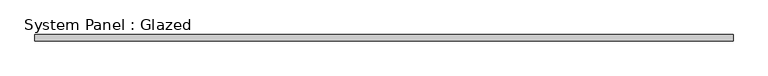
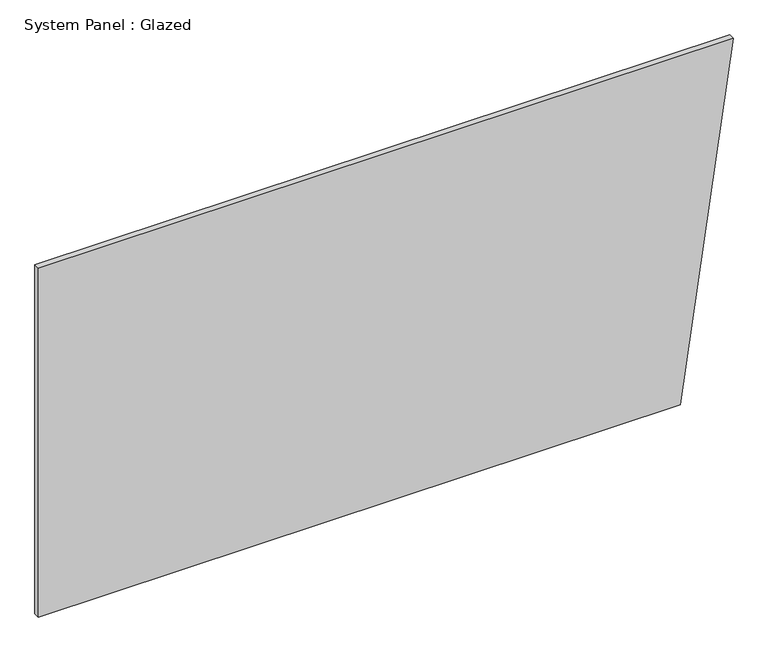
"""IFC4 building model written with IfcOpenShell, lengths in millimetres: plate geometry, System Panel : Glazed."""

from ifc_helpers import new_model, si_unit, frame, origin, place, context, project, spatial, polyline, outline, extrude, source, transform, mapped, element, save


def system_panel_glazed_e8fac23b(model_context):
    return source(origin(), model_context, "Body", "SweptSolid", [
        extrude(outline(polyline([(0.0, -1436.2877696), (0.0, 1217.0071941), (1524.0, 1436.2877696), (1524.0, -1436.2877696), (0.0, -1436.2877696)])), frame((0.0, 19.05, 0.0), z_axis=(0.0, 1.0, 0.0), x_axis=(0.0, 0.0, 1.0)), (0.0, 0.0, 1.0), 25.4),
    ])


if __name__ == "__main__":
    model = new_model("IFC4")
    model_context = context("Model", 3, world=origin())
    ifc_project = project(units=[si_unit("LENGTHUNIT", "METRE", prefix="MILLI")], contexts=[model_context])
    site = spatial("IfcSite", under=ifc_project)
    building = spatial("IfcBuilding", under=site)
    placement = place(None, origin())
    system_panel_glazed_shape = system_panel_glazed_e8fac23b(model_context)
    element("IfcPlate", 1, ObjectType="System Panel : Glazed", at=placement, inside=building, context=model_context, shape_type="MappedRepresentation", body=[
        mapped(system_panel_glazed_shape, transform((0.0, 0.0, 0.0), x_axis=(1.0, 0.0, 0.0), y_axis=(0.0, 1.0, 0.0), z_axis=(0.0, 0.0, 1.0))),
    ])
    save(model, "model.ifc")
